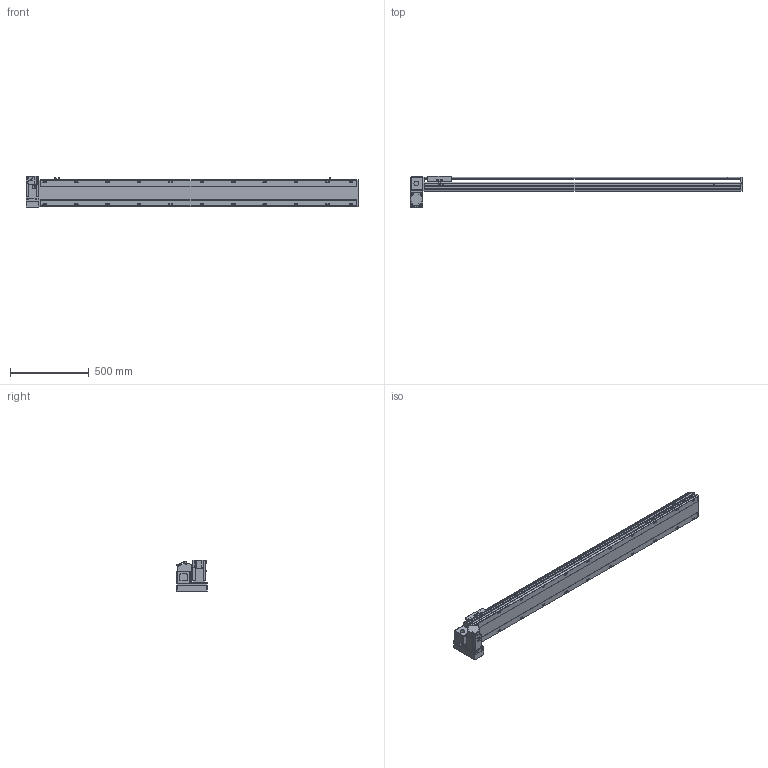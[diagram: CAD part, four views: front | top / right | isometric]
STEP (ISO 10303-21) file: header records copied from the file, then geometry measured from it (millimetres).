
FILE_DESCRIPTION( ( 'STEP AP214' ), '1' );
FILE_NAME( 'x:/temp/worker_4/temp/exporttempdir_2248_339_X9lIq/format_0/PBS170-P40-S1750-LD-T75-C1-N(0).stp', '2022-06-07T07:54:02', ( 'License CC BY-ND 4.0' ), ( 'CADENAS' ), ' ', 'PARTsolutions', ' ' );
FILE_SCHEMA( ( 'AUTOMOTIVE_DESIGN { 1 0 10303 214 1 1 1 1 }' ) );
Length unit declared in the file: millimetre
Products named in the file (7): PBS170-P40-S1750-LD-T75-C1-N(0); _PBS170-S1750()_body; _PBS170T-LD_motors; _T75-p1; _PBS170_sliser; _PBS170_plant; _PBS170_sensor
Assembly tree (8 placements, depth 2):
  PBS170-P40-S1750-LD-T75-C1-N(0)
    _PBS170-S1750()_body
    _PBS170T-LD_motors
    _T75-p1
    _PBS170_sliser
    _PBS170_plant
    _PBS170_sensor  x3
Bounding box: 2113 x 201 x 197.3 mm (x, y, z)
Volume: 16334979.5 mm3; surface area: 2084694 mm2
Topology: 8 solids, 8 shells, 1130 faces, 2995 edges, 1952 vertices
Faces by surface type: plane 705, cylinder 363, cone 52, sphere 8, torus 2
Full cylindrical faces by diameter (mm): 3.242 x4, 4 x2, 4.4 x4, 4.5 x6, 4.917 x4, 6 x9, 6.647 x30, 7 x2, 7.5 x4, 8 x8, 8.5 x22, 10 x4, 10.5 x22, 11 x2, 30 x2, 40 x1, 70 x1
Entity records: 41666 total; most frequent: CARTESIAN_POINT 6725, DIRECTION 5510, ORIENTED_EDGE 5208, EDGE_CURVE 2604, AXIS2_PLACEMENT_3D 1927, VERTEX_POINT 1802, LINE 1656, VECTOR 1656
